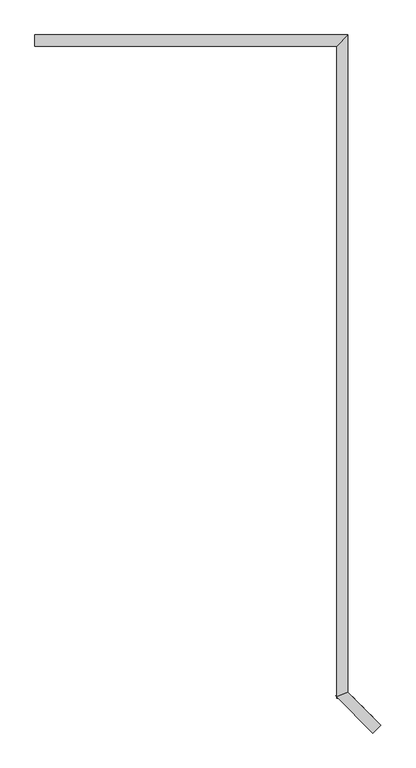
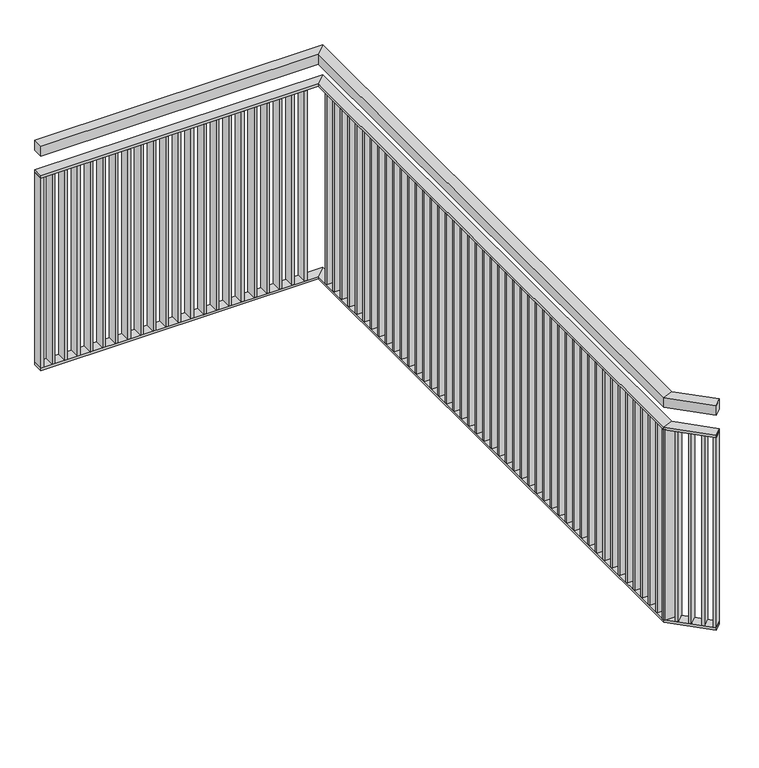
"""IFC4 building model written with IfcOpenShell, lengths in millimetres: railing geometry, Vertikale Stäbe mit Handlauf."""

import ifcopenshell
import ifcopenshell.guid

model = None  # the IFC model being written
_history = None  # IfcOwnerHistory: only IFC2X3 demands one
_inside = {}  # id of a spatial element -> (the spatial element, [elements in it])
_under = {}  # id of a project, library or spatial element -> (it, [spatial elements below it])
_declared = {}  # id of a project -> (the project, [libraries it declares])
_typed = {}  # id of a type object -> (the type object, [elements of that type])
_made_of = {}  # id of a material, layer set ... -> (it, [elements and type objects made of it])


def new_model(schema):
    """Start an empty IFC model of exactly this schema.

    Asked for "IFC4X3", IfcOpenShell would pick the latest addendum, in which some entities
    have other attributes; the version numbers below select the first issue.
    IFC2X3 requires an IfcOwnerHistory on every rooted entity: one is made here for all.
    """
    global model, _history
    if schema == "IFC4X3":
        model = ifcopenshell.file(schema_version=(4, 3, 0, 0))
    else:
        model = ifcopenshell.file(schema=schema)
    _inside.clear()
    _under.clear()
    _declared.clear()
    _typed.clear()
    _made_of.clear()
    _history = None
    if model.schema == "IFC2X3":
        org = make("IfcOrganization", Name="unknown")
        user = make(
            "IfcPersonAndOrganization",
            ThePerson=make("IfcPerson", FamilyName="unknown"),
            TheOrganization=org,
        )
        app = make(
            "IfcApplication",
            ApplicationDeveloper=org,
            Version="unknown",
            ApplicationFullName="unknown",
            ApplicationIdentifier="unknown",
        )
        _history = make(
            "IfcOwnerHistory",
            OwningUser=user,
            OwningApplication=app,
            ChangeAction="ADDED",
            CreationDate=0,
        )
    return model


def make(cls, **values):
    """One entity of the class cls with the attributes given. An attribute that is None is left unset."""
    return model.create_entity(
        cls, **{name: value for name, value in values.items() if value is not None}
    )


def rooted(cls, **values):
    """An entity with a GlobalId (a new one), such as an element, a storey or a relation."""
    return make(cls, GlobalId=ifcopenshell.guid.new(), OwnerHistory=_history, **values)


def si_unit(unit_type, name, prefix=None):
    """IfcSIUnit, for example si_unit("LENGTHUNIT", "METRE", prefix="MILLI")."""
    return make("IfcSIUnit", UnitType=unit_type, Prefix=prefix, Name=name)


def assignment(units):
    """IfcUnitAssignment: the units of a project."""
    return None if units is None else make("IfcUnitAssignment", Units=units)


def point(xyz):
    """IfcCartesianPoint."""
    return None if xyz is None else make("IfcCartesianPoint", Coordinates=xyz)


def direction(xyz):
    """IfcDirection."""
    return None if xyz is None else make("IfcDirection", DirectionRatios=xyz)


def frame(location, z_axis=None, x_axis=None):
    """IfcAxis2Placement3D, a coordinate frame: its origin and axes. An axis left out is left unset."""
    return make(
        "IfcAxis2Placement3D",
        Location=point(location),
        Axis=direction(z_axis),
        RefDirection=direction(x_axis),
    )


def origin():
    """The frame at (0, 0, 0) with its axes left unset."""
    return frame((0.0, 0.0, 0.0))


def place(relative_to, where):
    """IfcLocalPlacement: puts the frame where relative to a parent placement (None: the world)."""
    return make(
        "IfcLocalPlacement", PlacementRelTo=relative_to, RelativePlacement=where
    )


def context(
    kind, dimensions, precision=None, world=None, true_north=None, identifier=None
):
    """IfcGeometricRepresentationContext, for example the 3D "Model" context."""
    return make(
        "IfcGeometricRepresentationContext",
        ContextIdentifier=identifier,
        ContextType=kind,
        CoordinateSpaceDimension=dimensions,
        Precision=precision,
        WorldCoordinateSystem=world,
        TrueNorth=true_north,
    )


def project(units=None, contexts=None):
    """IfcProject with its units and contexts."""
    return rooted(
        "IfcProject",
        Name="project",
        RepresentationContexts=contexts,
        UnitsInContext=assignment(units),
    )


def spatial(cls, under=None, at=None, **own):
    """A site, building, storey or space (cls), placed at a placement, below another one or the project."""
    s = rooted(cls, ObjectPlacement=at, **own)
    if under is not None:
        _under.setdefault(under.id(), (under, []))[1].append(s)
    return s


def polyline(points):
    """IfcPolyline through the points."""
    return make("IfcPolyline", Points=[point(p) for p in points])


def outline(outer, holes=None, kind="AREA"):
    """IfcArbitraryClosedProfileDef: a profile drawn as a closed curve; with holes, ...WithVoids."""
    if holes is None:
        return make("IfcArbitraryClosedProfileDef", ProfileType=kind, OuterCurve=outer)
    return make(
        "IfcArbitraryProfileDefWithVoids",
        ProfileType=kind,
        OuterCurve=outer,
        InnerCurves=holes,
    )


def extrude(swept, where, along, depth):
    """IfcExtrudedAreaSolid: the profile swept, set in the frame where, extruded along a direction by depth."""
    return make(
        "IfcExtrudedAreaSolid",
        SweptArea=swept,
        Position=where,
        ExtrudedDirection=direction(along),
        Depth=depth,
    )


def faces_of(points, faces, orient=None, outer=None):
    """IfcFace entities. A face is a list of loops; a loop is a list of indices into points, from 0.

    orient and outer hold one flag for each loop. By default every Orientation is true, the
    first loop of a face is its IfcFaceOuterBound and the others are IfcFaceBound.
    """
    made = []
    for i, loops in enumerate(faces):
        bounds = []
        for j, loop in enumerate(loops):
            is_outer = j == 0 if outer is None else outer[i][j]
            bounds.append(
                make(
                    "IfcFaceOuterBound" if is_outer else "IfcFaceBound",
                    Bound=make("IfcPolyLoop", Polygon=[points[k] for k in loop]),
                    Orientation=True if orient is None else orient[i][j],
                )
            )
        made.append(make("IfcFace", Bounds=bounds))
    return made


def faceted_brep(points, faces, orient=None, outer=None, voids=None):
    """IfcFacetedBrep: a solid bounded by flat faces; with voids (closed shells), ...WithVoids."""
    shared = [point(p) for p in points]
    hull = make("IfcClosedShell", CfsFaces=faces_of(shared, faces, orient, outer))
    if voids is None:
        return make("IfcFacetedBrep", Outer=hull)
    return make(
        "IfcFacetedBrepWithVoids",
        Outer=hull,
        Voids=[
            make(cls, CfsFaces=faces_of(shared, fs, o, b)) for cls, fs, o, b in voids
        ],
    )


def shape(context_of_items, identifier, shape_type, items):
    """IfcShapeRepresentation: the items that make up one representation, for example the "Body"."""
    return make(
        "IfcShapeRepresentation",
        ContextOfItems=context_of_items,
        RepresentationIdentifier=identifier,
        RepresentationType=shape_type,
        Items=items,
    )


def source(mapping_origin, context_of_items, identifier, shape_type, items):
    """IfcRepresentationMap: a shape defined once, which mapped items show again and again."""
    return make(
        "IfcRepresentationMap",
        MappingOrigin=mapping_origin,
        MappedRepresentation=shape(context_of_items, identifier, shape_type, items),
    )


def transform(
    local_origin,
    x_axis=None,
    y_axis=None,
    z_axis=None,
    scale=None,
    scale2=None,
    scale3=None,
    uniform=True,
):
    """IfcCartesianTransformationOperator3D, or its non-uniform kind. x_axis, y_axis, z_axis: its Axis1, 2, 3."""
    if uniform:
        return make(
            "IfcCartesianTransformationOperator3D",
            Axis1=direction(x_axis),
            Axis2=direction(y_axis),
            LocalOrigin=point(local_origin),
            Scale=scale,
            Axis3=direction(z_axis),
        )
    return make(
        "IfcCartesianTransformationOperator3DnonUniform",
        Axis1=direction(x_axis),
        Axis2=direction(y_axis),
        LocalOrigin=point(local_origin),
        Scale=scale,
        Axis3=direction(z_axis),
        Scale2=scale2,
        Scale3=scale3,
    )


def mapped(mapping_source, mapping_target):
    """IfcMappedItem: shows the shape of a source again, moved by a transform."""
    return make(
        "IfcMappedItem", MappingSource=mapping_source, MappingTarget=mapping_target
    )


def made_of(thing, what):
    """Note that an element or type object is made of a material, layer set ...; save() writes the relation."""
    if what is not None:
        _made_of.setdefault(what.id(), (what, []))[1].append(thing)
    return thing


def element(
    cls,
    number,
    at=None,
    inside=None,
    cuts=None,
    type_object=None,
    material=None,
    context=None,
    identifier="Body",
    shape_type=None,
    held_by="IfcProductDefinitionShape",
    body=None,
    shapes=None,
    **own,
):
    """One element of the class cls, such as IfcWall. Its Tag is "e" and its number.

    at: its placement. inside: the storey or other place that contains it. cuts: it is an
    opening in that element (IfcRelVoidsElement). A single representation is given by context,
    identifier, shape_type and body (its items); several are given by shapes. held_by: the class
    of the entity that holds the representations. save() writes the other relations.
    """
    e = rooted(cls, Tag="e%d" % number, ObjectPlacement=at, **own)
    if body is not None:
        shapes = [shape(context, identifier, shape_type, body)]
    if shapes is not None:
        e.Representation = make(held_by, Representations=shapes)
    if inside is not None:
        _inside.setdefault(inside.id(), (inside, []))[1].append(e)
    if cuts is not None:
        rooted(
            "IfcRelVoidsElement", RelatingBuildingElement=cuts, RelatedOpeningElement=e
        )
    if type_object is not None:
        _typed.setdefault(type_object.id(), (type_object, []))[1].append(e)
    return made_of(e, material)


def aggregate(whole, parts):
    """IfcRelAggregates: a whole, such as a stair, and the parts it consists of."""
    return rooted("IfcRelAggregates", RelatingObject=whole, RelatedObjects=parts)


def save(model, path):
    """Write the relations noted so far, then the file.

    IfcRelAggregates (storeys below a building ...), IfcRelContainedInSpatialStructure (elements
    in a storey), IfcRelDefinesByType, IfcRelAssociatesMaterial and IfcRelDeclares: one each for
    every whole, place, type object, material and project.
    """
    for whole, parts in _under.values():
        aggregate(whole, parts)
    for where, things in _inside.values():
        rooted(
            "IfcRelContainedInSpatialStructure",
            RelatedElements=things,
            RelatingStructure=where,
        )
    for kind, things in _typed.values():
        rooted("IfcRelDefinesByType", RelatedObjects=things, RelatingType=kind)
    for what, things in _made_of.values():
        rooted("IfcRelAssociatesMaterial", RelatedObjects=things, RelatingMaterial=what)
    for by, libraries in _declared.values():
        rooted("IfcRelDeclares", RelatingContext=by, RelatedDefinitions=libraries)
    model.write(path)


def railing_ffa2e5ba(model_context):
    return source(origin(), model_context, "Body", "SolidModel", [
        faceted_brep([(990.0, 3950.0, 4750.0), (990.0, 3950.0, 4710.0), (990.0, 3910.0, 4710.0), (990.0, 3910.0, 4750.0), (2053.1207794, 3910.0, 4750.0), (2093.1207794, 3950.0, 4750.0), (2053.1207794, 3910.0, 4710.0), (2093.1207794, 3950.0, 4710.0), (2208.6842712, 1518.2842712, 4750.0), (2180.4, 1490.0, 4750.0), (2180.4, 1490.0, 4710.0), (2208.6842712, 1518.2842712, 4710.0), (2093.1207794, 1633.8477631, 4750.0), (2053.1207794, 1617.2792206, 4750.0), (2053.1207794, 1617.2792206, 4710.0), (2093.1207794, 1633.8477631, 4710.0)], [[[0, 1, 2, 3]], [[4, 5, 0, 3]], [[6, 4, 3, 2]], [[7, 6, 2, 1]], [[5, 7, 1, 0]], [[8, 9, 10, 11]], [[9, 8, 12, 13]], [[10, 9, 13, 14]], [[11, 10, 14, 15]], [[8, 11, 15, 12]], [[13, 12, 5, 4]], [[14, 13, 4, 6]], [[15, 14, 6, 7]], [[12, 15, 7, 5]]]),
        faceted_brep([(990.0, 3950.0, 4630.0), (990.0, 3950.0, 4620.0), (990.0, 3910.0, 4620.0), (990.0, 3910.0, 4630.0), (2053.1207794, 3910.0, 4630.0), (2093.1207794, 3950.0, 4630.0), (2053.1207794, 3910.0, 4620.0), (2093.1207794, 3950.0, 4620.0), (2208.6842712, 1518.2842712, 4630.0), (2180.4, 1490.0, 4630.0), (2180.4, 1490.0, 4620.0), (2208.6842712, 1518.2842712, 4620.0), (2093.1207794, 1633.8477631, 4630.0), (2053.1207794, 1617.2792206, 4630.0), (2053.1207794, 1617.2792206, 4620.0), (2093.1207794, 1633.8477631, 4620.0)], [[[0, 1, 2, 3]], [[4, 5, 0, 3]], [[6, 4, 3, 2]], [[7, 6, 2, 1]], [[5, 7, 1, 0]], [[8, 9, 10, 11]], [[9, 8, 12, 13]], [[10, 9, 13, 14]], [[11, 10, 14, 15]], [[8, 11, 15, 12]], [[13, 12, 5, 4]], [[14, 13, 4, 6]], [[15, 14, 6, 7]], [[12, 15, 7, 5]]]),
        faceted_brep([(990.0, 3950.0, 3850.0), (990.0, 3950.0, 3840.0), (990.0, 3910.0, 3840.0), (990.0, 3910.0, 3850.0), (2053.1207794, 3910.0, 3850.0), (2093.1207794, 3950.0, 3850.0), (2053.1207794, 3910.0, 3840.0), (2093.1207794, 3950.0, 3840.0), (2208.6842712, 1518.2842712, 3850.0), (2180.4, 1490.0, 3850.0), (2180.4, 1490.0, 3840.0), (2208.6842712, 1518.2842712, 3840.0), (2093.1207794, 1633.8477631, 3850.0), (2053.1207794, 1617.2792206, 3850.0), (2053.1207794, 1617.2792206, 3840.0), (2093.1207794, 1633.8477631, 3840.0)], [[[0, 1, 2, 3]], [[4, 5, 0, 3]], [[6, 4, 3, 2]], [[7, 6, 2, 1]], [[5, 7, 1, 0]], [[8, 9, 10, 11]], [[9, 8, 12, 13]], [[10, 9, 13, 14]], [[11, 10, 14, 15]], [[8, 11, 15, 12]], [[13, 12, 5, 4]], [[14, 13, 4, 6]], [[15, 14, 6, 7]], [[12, 15, 7, 5]]]),
        extrude(outline(polyline([(1043.3236718, 3950.0), (1043.3236718, 3910.0), (1033.3236718, 3910.0), (1033.3236718, 3950.0), (1043.3236718, 3950.0)])), frame((0.0, 0.0, 3850.0), z_axis=(0.0, 0.0, 1.0), x_axis=(1.0, 0.0, 0.0)), (0.0, 0.0, 1.0), 770.0),
        extrude(outline(polyline([(1091.6473436, 3950.0), (1091.6473436, 3910.0), (1081.6473436, 3910.0), (1081.6473436, 3950.0), (1091.6473436, 3950.0)])), frame((0.0, 0.0, 3850.0), z_axis=(0.0, 0.0, 1.0), x_axis=(1.0, 0.0, 0.0)), (0.0, 0.0, 1.0), 770.0),
        extrude(outline(polyline([(1139.9710154, 3950.0), (1139.9710154, 3910.0), (1129.9710154, 3910.0), (1129.9710154, 3950.0), (1139.9710154, 3950.0)])), frame((0.0, 0.0, 3850.0), z_axis=(0.0, 0.0, 1.0), x_axis=(1.0, 0.0, 0.0)), (0.0, 0.0, 1.0), 770.0),
        extrude(outline(polyline([(1188.2946872, 3950.0), (1188.2946872, 3910.0), (1178.2946872, 3910.0), (1178.2946872, 3950.0), (1188.2946872, 3950.0)])), frame((0.0, 0.0, 3850.0), z_axis=(0.0, 0.0, 1.0), x_axis=(1.0, 0.0, 0.0)), (0.0, 0.0, 1.0), 770.0),
        extrude(outline(polyline([(1236.618359, 3950.0), (1236.618359, 3910.0), (1226.618359, 3910.0), (1226.618359, 3950.0), (1236.618359, 3950.0)])), frame((0.0, 0.0, 3850.0), z_axis=(0.0, 0.0, 1.0), x_axis=(1.0, 0.0, 0.0)), (0.0, 0.0, 1.0), 770.0),
        extrude(outline(polyline([(1284.9420307, 3950.0), (1284.9420307, 3910.0), (1274.9420307, 3910.0), (1274.9420307, 3950.0), (1284.9420307, 3950.0)])), frame((0.0, 0.0, 3850.0), z_axis=(0.0, 0.0, 1.0), x_axis=(1.0, 0.0, 0.0)), (0.0, 0.0, 1.0), 770.0),
        extrude(outline(polyline([(1333.2657025, 3950.0), (1333.2657025, 3910.0), (1323.2657025, 3910.0), (1323.2657025, 3950.0), (1333.2657025, 3950.0)])), frame((0.0, 0.0, 3850.0), z_axis=(0.0, 0.0, 1.0), x_axis=(1.0, 0.0, 0.0)), (0.0, 0.0, 1.0), 770.0),
        extrude(outline(polyline([(1381.5893743, 3950.0), (1381.5893743, 3910.0), (1371.5893743, 3910.0), (1371.5893743, 3950.0), (1381.5893743, 3950.0)])), frame((0.0, 0.0, 3850.0), z_axis=(0.0, 0.0, 1.0), x_axis=(1.0, 0.0, 0.0)), (0.0, 0.0, 1.0), 770.0),
        extrude(outline(polyline([(1429.9130461, 3950.0), (1429.9130461, 3910.0), (1419.9130461, 3910.0), (1419.9130461, 3950.0), (1429.9130461, 3950.0)])), frame((0.0, 0.0, 3850.0), z_axis=(0.0, 0.0, 1.0), x_axis=(1.0, 0.0, 0.0)), (0.0, 0.0, 1.0), 770.0),
        extrude(outline(polyline([(1478.2367179, 3950.0), (1478.2367179, 3910.0), (1468.2367179, 3910.0), (1468.2367179, 3950.0), (1478.2367179, 3950.0)])), frame((0.0, 0.0, 3850.0), z_axis=(0.0, 0.0, 1.0), x_axis=(1.0, 0.0, 0.0)), (0.0, 0.0, 1.0), 770.0),
        extrude(outline(polyline([(1526.5603897, 3950.0), (1526.5603897, 3910.0), (1516.5603897, 3910.0), (1516.5603897, 3950.0), (1526.5603897, 3950.0)])), frame((0.0, 0.0, 3850.0), z_axis=(0.0, 0.0, 1.0), x_axis=(1.0, 0.0, 0.0)), (0.0, 0.0, 1.0), 770.0),
        extrude(outline(polyline([(1574.8840615, 3950.0), (1574.8840615, 3910.0), (1564.8840615, 3910.0), (1564.8840615, 3950.0), (1574.8840615, 3950.0)])), frame((0.0, 0.0, 3850.0), z_axis=(0.0, 0.0, 1.0), x_axis=(1.0, 0.0, 0.0)), (0.0, 0.0, 1.0), 770.0),
        extrude(outline(polyline([(1623.2077333, 3950.0), (1623.2077333, 3910.0), (1613.2077333, 3910.0), (1613.2077333, 3950.0), (1623.2077333, 3950.0)])), frame((0.0, 0.0, 3850.0), z_axis=(0.0, 0.0, 1.0), x_axis=(1.0, 0.0, 0.0)), (0.0, 0.0, 1.0), 770.0),
        extrude(outline(polyline([(1671.5314051, 3950.0), (1671.5314051, 3910.0), (1661.5314051, 3910.0), (1661.5314051, 3950.0), (1671.5314051, 3950.0)])), frame((0.0, 0.0, 3850.0), z_axis=(0.0, 0.0, 1.0), x_axis=(1.0, 0.0, 0.0)), (0.0, 0.0, 1.0), 770.0),
        extrude(outline(polyline([(1719.8550769, 3950.0), (1719.8550769, 3910.0), (1709.8550769, 3910.0), (1709.8550769, 3950.0), (1719.8550769, 3950.0)])), frame((0.0, 0.0, 3850.0), z_axis=(0.0, 0.0, 1.0), x_axis=(1.0, 0.0, 0.0)), (0.0, 0.0, 1.0), 770.0),
        extrude(outline(polyline([(1768.1787486, 3950.0), (1768.1787486, 3910.0), (1758.1787486, 3910.0), (1758.1787486, 3950.0), (1768.1787486, 3950.0)])), frame((0.0, 0.0, 3850.0), z_axis=(0.0, 0.0, 1.0), x_axis=(1.0, 0.0, 0.0)), (0.0, 0.0, 1.0), 770.0),
        extrude(outline(polyline([(1816.5024204, 3950.0), (1816.5024204, 3910.0), (1806.5024204, 3910.0), (1806.5024204, 3950.0), (1816.5024204, 3950.0)])), frame((0.0, 0.0, 3850.0), z_axis=(0.0, 0.0, 1.0), x_axis=(1.0, 0.0, 0.0)), (0.0, 0.0, 1.0), 770.0),
        extrude(outline(polyline([(1864.8260922, 3950.0), (1864.8260922, 3910.0), (1854.8260922, 3910.0), (1854.8260922, 3950.0), (1864.8260922, 3950.0)])), frame((0.0, 0.0, 3850.0), z_axis=(0.0, 0.0, 1.0), x_axis=(1.0, 0.0, 0.0)), (0.0, 0.0, 1.0), 770.0),
        extrude(outline(polyline([(1913.149764, 3950.0), (1913.149764, 3910.0), (1903.149764, 3910.0), (1903.149764, 3950.0), (1913.149764, 3950.0)])), frame((0.0, 0.0, 3850.0), z_axis=(0.0, 0.0, 1.0), x_axis=(1.0, 0.0, 0.0)), (0.0, 0.0, 1.0), 770.0),
        extrude(outline(polyline([(1961.4734358, 3950.0), (1961.4734358, 3910.0), (1951.4734358, 3910.0), (1951.4734358, 3950.0), (1961.4734358, 3950.0)])), frame((0.0, 0.0, 3850.0), z_axis=(0.0, 0.0, 1.0), x_axis=(1.0, 0.0, 0.0)), (0.0, 0.0, 1.0), 770.0),
        extrude(outline(polyline([(2009.7971076, 3950.0), (2009.7971076, 3910.0), (1999.7971076, 3910.0), (1999.7971076, 3950.0), (2009.7971076, 3950.0)])), frame((0.0, 0.0, 3850.0), z_axis=(0.0, 0.0, 1.0), x_axis=(1.0, 0.0, 0.0)), (0.0, 0.0, 1.0), 770.0),
        extrude(outline(polyline([(2093.1207794, 3855.1582439), (2053.1207794, 3855.1582439), (2053.1207794, 3865.1582439), (2093.1207794, 3865.1582439), (2093.1207794, 3855.1582439)])), frame((0.0, 0.0, 3850.0), z_axis=(0.0, 0.0, 1.0), x_axis=(1.0, 0.0, 0.0)), (0.0, 0.0, 1.0), 770.0),
        extrude(outline(polyline([(2093.1207794, 3805.3164879), (2053.1207794, 3805.3164879), (2053.1207794, 3815.3164879), (2093.1207794, 3815.3164879), (2093.1207794, 3805.3164879)])), frame((0.0, 0.0, 3850.0), z_axis=(0.0, 0.0, 1.0), x_axis=(1.0, 0.0, 0.0)), (0.0, 0.0, 1.0), 770.0),
        extrude(outline(polyline([(2093.1207794, 3755.4747318), (2053.1207794, 3755.4747318), (2053.1207794, 3765.4747318), (2093.1207794, 3765.4747318), (2093.1207794, 3755.4747318)])), frame((0.0, 0.0, 3850.0), z_axis=(0.0, 0.0, 1.0), x_axis=(1.0, 0.0, 0.0)), (0.0, 0.0, 1.0), 770.0),
        extrude(outline(polyline([(2093.1207794, 3705.6329757), (2053.1207794, 3705.6329757), (2053.1207794, 3715.6329757), (2093.1207794, 3715.6329757), (2093.1207794, 3705.6329757)])), frame((0.0, 0.0, 3850.0), z_axis=(0.0, 0.0, 1.0), x_axis=(1.0, 0.0, 0.0)), (0.0, 0.0, 1.0), 770.0),
        extrude(outline(polyline([(2093.1207794, 3655.7912196), (2053.1207794, 3655.7912196), (2053.1207794, 3665.7912196), (2093.1207794, 3665.7912196), (2093.1207794, 3655.7912196)])), frame((0.0, 0.0, 3850.0), z_axis=(0.0, 0.0, 1.0), x_axis=(1.0, 0.0, 0.0)), (0.0, 0.0, 1.0), 770.0),
        extrude(outline(polyline([(2093.1207794, 3605.9494636), (2053.1207794, 3605.9494636), (2053.1207794, 3615.9494636), (2093.1207794, 3615.9494636), (2093.1207794, 3605.9494636)])), frame((0.0, 0.0, 3850.0), z_axis=(0.0, 0.0, 1.0), x_axis=(1.0, 0.0, 0.0)), (0.0, 0.0, 1.0), 770.0),
        extrude(outline(polyline([(2093.1207794, 3556.1077075), (2053.1207794, 3556.1077075), (2053.1207794, 3566.1077075), (2093.1207794, 3566.1077075), (2093.1207794, 3556.1077075)])), frame((0.0, 0.0, 3850.0), z_axis=(0.0, 0.0, 1.0), x_axis=(1.0, 0.0, 0.0)), (0.0, 0.0, 1.0), 770.0),
        extrude(outline(polyline([(2093.1207794, 3506.2659514), (2053.1207794, 3506.2659514), (2053.1207794, 3516.2659514), (2093.1207794, 3516.2659514), (2093.1207794, 3506.2659514)])), frame((0.0, 0.0, 3850.0), z_axis=(0.0, 0.0, 1.0), x_axis=(1.0, 0.0, 0.0)), (0.0, 0.0, 1.0), 770.0),
        extrude(outline(polyline([(2093.1207794, 3456.4241953), (2053.1207794, 3456.4241953), (2053.1207794, 3466.4241953), (2093.1207794, 3466.4241953), (2093.1207794, 3456.4241953)])), frame((0.0, 0.0, 3850.0), z_axis=(0.0, 0.0, 1.0), x_axis=(1.0, 0.0, 0.0)), (0.0, 0.0, 1.0), 770.0),
        extrude(outline(polyline([(2093.1207794, 3406.5824393), (2053.1207794, 3406.5824393), (2053.1207794, 3416.5824393), (2093.1207794, 3416.5824393), (2093.1207794, 3406.5824393)])), frame((0.0, 0.0, 3850.0), z_axis=(0.0, 0.0, 1.0), x_axis=(1.0, 0.0, 0.0)), (0.0, 0.0, 1.0), 770.0),
        extrude(outline(polyline([(2093.1207794, 3356.7406832), (2053.1207794, 3356.7406832), (2053.1207794, 3366.7406832), (2093.1207794, 3366.7406832), (2093.1207794, 3356.7406832)])), frame((0.0, 0.0, 3850.0), z_axis=(0.0, 0.0, 1.0), x_axis=(1.0, 0.0, 0.0)), (0.0, 0.0, 1.0), 770.0),
        extrude(outline(polyline([(2093.1207794, 3306.8989271), (2053.1207794, 3306.8989271), (2053.1207794, 3316.8989271), (2093.1207794, 3316.8989271), (2093.1207794, 3306.8989271)])), frame((0.0, 0.0, 3850.0), z_axis=(0.0, 0.0, 1.0), x_axis=(1.0, 0.0, 0.0)), (0.0, 0.0, 1.0), 770.0),
        extrude(outline(polyline([(2093.1207794, 3257.057171), (2053.1207794, 3257.057171), (2053.1207794, 3267.057171), (2093.1207794, 3267.057171), (2093.1207794, 3257.057171)])), frame((0.0, 0.0, 3850.0), z_axis=(0.0, 0.0, 1.0), x_axis=(1.0, 0.0, 0.0)), (0.0, 0.0, 1.0), 770.0),
        extrude(outline(polyline([(2093.1207794, 3207.215415), (2053.1207794, 3207.215415), (2053.1207794, 3217.215415), (2093.1207794, 3217.215415), (2093.1207794, 3207.215415)])), frame((0.0, 0.0, 3850.0), z_axis=(0.0, 0.0, 1.0), x_axis=(1.0, 0.0, 0.0)), (0.0, 0.0, 1.0), 770.0),
        extrude(outline(polyline([(2093.1207794, 3157.3736589), (2053.1207794, 3157.3736589), (2053.1207794, 3167.3736589), (2093.1207794, 3167.3736589), (2093.1207794, 3157.3736589)])), frame((0.0, 0.0, 3850.0), z_axis=(0.0, 0.0, 1.0), x_axis=(1.0, 0.0, 0.0)), (0.0, 0.0, 1.0), 770.0),
        extrude(outline(polyline([(2093.1207794, 3107.5319028), (2053.1207794, 3107.5319028), (2053.1207794, 3117.5319028), (2093.1207794, 3117.5319028), (2093.1207794, 3107.5319028)])), frame((0.0, 0.0, 3850.0), z_axis=(0.0, 0.0, 1.0), x_axis=(1.0, 0.0, 0.0)), (0.0, 0.0, 1.0), 770.0),
        extrude(outline(polyline([(2093.1207794, 3057.6901467), (2053.1207794, 3057.6901467), (2053.1207794, 3067.6901467), (2093.1207794, 3067.6901467), (2093.1207794, 3057.6901467)])), frame((0.0, 0.0, 3850.0), z_axis=(0.0, 0.0, 1.0), x_axis=(1.0, 0.0, 0.0)), (0.0, 0.0, 1.0), 770.0),
        extrude(outline(polyline([(2093.1207794, 3007.8483907), (2053.1207794, 3007.8483907), (2053.1207794, 3017.8483907), (2093.1207794, 3017.8483907), (2093.1207794, 3007.8483907)])), frame((0.0, 0.0, 3850.0), z_axis=(0.0, 0.0, 1.0), x_axis=(1.0, 0.0, 0.0)), (0.0, 0.0, 1.0), 770.0),
        extrude(outline(polyline([(2093.1207794, 2958.0066346), (2053.1207794, 2958.0066346), (2053.1207794, 2968.0066346), (2093.1207794, 2968.0066346), (2093.1207794, 2958.0066346)])), frame((0.0, 0.0, 3850.0), z_axis=(0.0, 0.0, 1.0), x_axis=(1.0, 0.0, 0.0)), (0.0, 0.0, 1.0), 770.0),
        extrude(outline(polyline([(2093.1207794, 2908.1648785), (2053.1207794, 2908.1648785), (2053.1207794, 2918.1648785), (2093.1207794, 2918.1648785), (2093.1207794, 2908.1648785)])), frame((0.0, 0.0, 3850.0), z_axis=(0.0, 0.0, 1.0), x_axis=(1.0, 0.0, 0.0)), (0.0, 0.0, 1.0), 770.0),
        extrude(outline(polyline([(2093.1207794, 2858.3231225), (2053.1207794, 2858.3231225), (2053.1207794, 2868.3231225), (2093.1207794, 2868.3231225), (2093.1207794, 2858.3231225)])), frame((0.0, 0.0, 3850.0), z_axis=(0.0, 0.0, 1.0), x_axis=(1.0, 0.0, 0.0)), (0.0, 0.0, 1.0), 770.0),
        extrude(outline(polyline([(2093.1207794, 2808.4813664), (2053.1207794, 2808.4813664), (2053.1207794, 2818.4813664), (2093.1207794, 2818.4813664), (2093.1207794, 2808.4813664)])), frame((0.0, 0.0, 3850.0), z_axis=(0.0, 0.0, 1.0), x_axis=(1.0, 0.0, 0.0)), (0.0, 0.0, 1.0), 770.0),
        extrude(outline(polyline([(2093.1207794, 2758.6396103), (2053.1207794, 2758.6396103), (2053.1207794, 2768.6396103), (2093.1207794, 2768.6396103), (2093.1207794, 2758.6396103)])), frame((0.0, 0.0, 3850.0), z_axis=(0.0, 0.0, 1.0), x_axis=(1.0, 0.0, 0.0)), (0.0, 0.0, 1.0), 770.0),
        extrude(outline(polyline([(2093.1207794, 2708.7978542), (2053.1207794, 2708.7978542), (2053.1207794, 2718.7978542), (2093.1207794, 2718.7978542), (2093.1207794, 2708.7978542)])), frame((0.0, 0.0, 3850.0), z_axis=(0.0, 0.0, 1.0), x_axis=(1.0, 0.0, 0.0)), (0.0, 0.0, 1.0), 770.0),
        extrude(outline(polyline([(2093.1207794, 2658.9560982), (2053.1207794, 2658.9560982), (2053.1207794, 2668.9560982), (2093.1207794, 2668.9560982), (2093.1207794, 2658.9560982)])), frame((0.0, 0.0, 3850.0), z_axis=(0.0, 0.0, 1.0), x_axis=(1.0, 0.0, 0.0)), (0.0, 0.0, 1.0), 770.0),
        extrude(outline(polyline([(2093.1207794, 2609.1143421), (2053.1207794, 2609.1143421), (2053.1207794, 2619.1143421), (2093.1207794, 2619.1143421), (2093.1207794, 2609.1143421)])), frame((0.0, 0.0, 3850.0), z_axis=(0.0, 0.0, 1.0), x_axis=(1.0, 0.0, 0.0)), (0.0, 0.0, 1.0), 770.0),
        extrude(outline(polyline([(2093.1207794, 2559.272586), (2053.1207794, 2559.272586), (2053.1207794, 2569.272586), (2093.1207794, 2569.272586), (2093.1207794, 2559.272586)])), frame((0.0, 0.0, 3850.0), z_axis=(0.0, 0.0, 1.0), x_axis=(1.0, 0.0, 0.0)), (0.0, 0.0, 1.0), 770.0),
        extrude(outline(polyline([(2093.1207794, 2509.4308299), (2053.1207794, 2509.4308299), (2053.1207794, 2519.4308299), (2093.1207794, 2519.4308299), (2093.1207794, 2509.4308299)])), frame((0.0, 0.0, 3850.0), z_axis=(0.0, 0.0, 1.0), x_axis=(1.0, 0.0, 0.0)), (0.0, 0.0, 1.0), 770.0),
        extrude(outline(polyline([(2093.1207794, 2459.5890739), (2053.1207794, 2459.5890739), (2053.1207794, 2469.5890739), (2093.1207794, 2469.5890739), (2093.1207794, 2459.5890739)])), frame((0.0, 0.0, 3850.0), z_axis=(0.0, 0.0, 1.0), x_axis=(1.0, 0.0, 0.0)), (0.0, 0.0, 1.0), 770.0),
        extrude(outline(polyline([(2093.1207794, 2409.7473178), (2053.1207794, 2409.7473178), (2053.1207794, 2419.7473178), (2093.1207794, 2419.7473178), (2093.1207794, 2409.7473178)])), frame((0.0, 0.0, 3850.0), z_axis=(0.0, 0.0, 1.0), x_axis=(1.0, 0.0, 0.0)), (0.0, 0.0, 1.0), 770.0),
        extrude(outline(polyline([(2093.1207794, 2359.9055617), (2053.1207794, 2359.9055617), (2053.1207794, 2369.9055617), (2093.1207794, 2369.9055617), (2093.1207794, 2359.9055617)])), frame((0.0, 0.0, 3850.0), z_axis=(0.0, 0.0, 1.0), x_axis=(1.0, 0.0, 0.0)), (0.0, 0.0, 1.0), 770.0),
        extrude(outline(polyline([(2093.1207794, 2310.0638056), (2053.1207794, 2310.0638056), (2053.1207794, 2320.0638056), (2093.1207794, 2320.0638056), (2093.1207794, 2310.0638056)])), frame((0.0, 0.0, 3850.0), z_axis=(0.0, 0.0, 1.0), x_axis=(1.0, 0.0, 0.0)), (0.0, 0.0, 1.0), 770.0),
        extrude(outline(polyline([(2093.1207794, 2260.2220496), (2053.1207794, 2260.2220496), (2053.1207794, 2270.2220496), (2093.1207794, 2270.2220496), (2093.1207794, 2260.2220496)])), frame((0.0, 0.0, 3850.0), z_axis=(0.0, 0.0, 1.0), x_axis=(1.0, 0.0, 0.0)), (0.0, 0.0, 1.0), 770.0),
        extrude(outline(polyline([(2093.1207794, 2210.3802935), (2053.1207794, 2210.3802935), (2053.1207794, 2220.3802935), (2093.1207794, 2220.3802935), (2093.1207794, 2210.3802935)])), frame((0.0, 0.0, 3850.0), z_axis=(0.0, 0.0, 1.0), x_axis=(1.0, 0.0, 0.0)), (0.0, 0.0, 1.0), 770.0),
        extrude(outline(polyline([(2093.1207794, 2160.5385374), (2053.1207794, 2160.5385374), (2053.1207794, 2170.5385374), (2093.1207794, 2170.5385374), (2093.1207794, 2160.5385374)])), frame((0.0, 0.0, 3850.0), z_axis=(0.0, 0.0, 1.0), x_axis=(1.0, 0.0, 0.0)), (0.0, 0.0, 1.0), 770.0),
        extrude(outline(polyline([(2093.1207794, 2110.6967813), (2053.1207794, 2110.6967813), (2053.1207794, 2120.6967813), (2093.1207794, 2120.6967813), (2093.1207794, 2110.6967813)])), frame((0.0, 0.0, 3850.0), z_axis=(0.0, 0.0, 1.0), x_axis=(1.0, 0.0, 0.0)), (0.0, 0.0, 1.0), 770.0),
        extrude(outline(polyline([(2093.1207794, 2060.8550253), (2053.1207794, 2060.8550253), (2053.1207794, 2070.8550253), (2093.1207794, 2070.8550253), (2093.1207794, 2060.8550253)])), frame((0.0, 0.0, 3850.0), z_axis=(0.0, 0.0, 1.0), x_axis=(1.0, 0.0, 0.0)), (0.0, 0.0, 1.0), 770.0),
        extrude(outline(polyline([(2093.1207794, 2011.0132692), (2053.1207794, 2011.0132692), (2053.1207794, 2021.0132692), (2093.1207794, 2021.0132692), (2093.1207794, 2011.0132692)])), frame((0.0, 0.0, 3850.0), z_axis=(0.0, 0.0, 1.0), x_axis=(1.0, 0.0, 0.0)), (0.0, 0.0, 1.0), 770.0),
        extrude(outline(polyline([(2093.1207794, 1961.1715131), (2053.1207794, 1961.1715131), (2053.1207794, 1971.1715131), (2093.1207794, 1971.1715131), (2093.1207794, 1961.1715131)])), frame((0.0, 0.0, 3850.0), z_axis=(0.0, 0.0, 1.0), x_axis=(1.0, 0.0, 0.0)), (0.0, 0.0, 1.0), 770.0),
        extrude(outline(polyline([(2093.1207794, 1911.3297571), (2053.1207794, 1911.3297571), (2053.1207794, 1921.3297571), (2093.1207794, 1921.3297571), (2093.1207794, 1911.3297571)])), frame((0.0, 0.0, 3850.0), z_axis=(0.0, 0.0, 1.0), x_axis=(1.0, 0.0, 0.0)), (0.0, 0.0, 1.0), 770.0),
        extrude(outline(polyline([(2093.1207794, 1861.488001), (2053.1207794, 1861.488001), (2053.1207794, 1871.488001), (2093.1207794, 1871.488001), (2093.1207794, 1861.488001)])), frame((0.0, 0.0, 3850.0), z_axis=(0.0, 0.0, 1.0), x_axis=(1.0, 0.0, 0.0)), (0.0, 0.0, 1.0), 770.0),
        extrude(outline(polyline([(2093.1207794, 1811.6462449), (2053.1207794, 1811.6462449), (2053.1207794, 1821.6462449), (2093.1207794, 1821.6462449), (2093.1207794, 1811.6462449)])), frame((0.0, 0.0, 3850.0), z_axis=(0.0, 0.0, 1.0), x_axis=(1.0, 0.0, 0.0)), (0.0, 0.0, 1.0), 770.0),
        extrude(outline(polyline([(2093.1207794, 1761.8044888), (2053.1207794, 1761.8044888), (2053.1207794, 1771.8044888), (2093.1207794, 1771.8044888), (2093.1207794, 1761.8044888)])), frame((0.0, 0.0, 3850.0), z_axis=(0.0, 0.0, 1.0), x_axis=(1.0, 0.0, 0.0)), (0.0, 0.0, 1.0), 770.0),
        extrude(outline(polyline([(2093.1207794, 1711.9627328), (2053.1207794, 1711.9627328), (2053.1207794, 1721.9627328), (2093.1207794, 1721.9627328), (2093.1207794, 1711.9627328)])), frame((0.0, 0.0, 3850.0), z_axis=(0.0, 0.0, 1.0), x_axis=(1.0, 0.0, 0.0)), (0.0, 0.0, 1.0), 770.0),
        extrude(outline(polyline([(2093.1207794, 1662.1209767), (2053.1207794, 1662.1209767), (2053.1207794, 1672.1209767), (2093.1207794, 1672.1209767), (2093.1207794, 1662.1209767)])), frame((0.0, 0.0, 3850.0), z_axis=(0.0, 0.0, 1.0), x_axis=(1.0, 0.0, 0.0)), (0.0, 0.0, 1.0), 770.0),
        extrude(outline(polyline([(2093.1207794, 1612.2792206), (2053.1207794, 1612.2792206), (2053.1207794, 1622.2792206), (2093.1207794, 1622.2792206), (2093.1207794, 1612.2792206)])), frame((0.0, 0.0, 3850.0), z_axis=(0.0, 0.0, 1.0), x_axis=(1.0, 0.0, 0.0)), (0.0, 0.0, 1.0), 770.0),
        extrude(outline(polyline([(2084.9405845, 1642.027958), (2056.6563133, 1613.7436867), (2049.5852455, 1620.8147545), (2077.8695167, 1649.0990258), (2084.9405845, 1642.027958)])), frame((0.0, 0.0, 3850.0), z_axis=(0.0, 0.0, 1.0), x_axis=(1.0, 0.0, 0.0)), (0.0, 0.0, 1.0), 770.0),
        extrude(outline(polyline([(2116.7603897, 1610.2081528), (2088.4761184, 1581.9238816), (2081.4050506, 1588.9949494), (2109.6893219, 1617.2792206), (2116.7603897, 1610.2081528)])), frame((0.0, 0.0, 3850.0), z_axis=(0.0, 0.0, 1.0), x_axis=(1.0, 0.0, 0.0)), (0.0, 0.0, 1.0), 770.0),
        extrude(outline(polyline([(2148.5801948, 1578.3883476), (2120.2959236, 1550.1040764), (2113.2248558, 1557.1751442), (2141.509127, 1585.4594155), (2148.5801948, 1578.3883476)])), frame((0.0, 0.0, 3850.0), z_axis=(0.0, 0.0, 1.0), x_axis=(1.0, 0.0, 0.0)), (0.0, 0.0, 1.0), 770.0),
        extrude(outline(polyline([(2180.4, 1546.5685425), (2152.1157288, 1518.2842712), (2145.0446609, 1525.3553391), (2173.3289322, 1553.6396103), (2180.4, 1546.5685425)])), frame((0.0, 0.0, 3850.0), z_axis=(0.0, 0.0, 1.0), x_axis=(1.0, 0.0, 0.0)), (0.0, 0.0, 1.0), 770.0),
        extrude(outline(polyline([(1000.0, 3950.0), (1000.0, 3910.0), (990.0, 3910.0), (990.0, 3950.0), (1000.0, 3950.0)])), frame((0.0, 0.0, 3850.0), z_axis=(0.0, 0.0, 1.0), x_axis=(1.0, 0.0, 0.0)), (0.0, 0.0, 1.0), 770.0),
        extrude(outline(polyline([(2208.6842712, 1518.2842712), (2180.4, 1490.0), (2173.3289322, 1497.0710678), (2201.6132034, 1525.3553391), (2208.6842712, 1518.2842712)])), frame((0.0, 0.0, 3850.0), z_axis=(0.0, 0.0, 1.0), x_axis=(1.0, 0.0, 0.0)), (0.0, 0.0, 1.0), 770.0),
    ])


if __name__ == "__main__":
    model = new_model("IFC4")
    model_context = context("Model", 3, world=origin())
    ifc_project = project(units=[si_unit("LENGTHUNIT", "METRE", prefix="MILLI")], contexts=[model_context])
    site = spatial("IfcSite", under=ifc_project)
    building = spatial("IfcBuilding", under=site)
    placement = place(None, origin())
    railing_shape = railing_ffa2e5ba(model_context)
    element("IfcRailing", 1, ObjectType="Vertikale Stäbe mit Handlauf", at=placement, inside=building, context=model_context, shape_type="MappedRepresentation", body=[
        mapped(railing_shape, transform((0.0, 0.0, 0.0), x_axis=(1.0, 0.0, 0.0), y_axis=(0.0, 1.0, 0.0), z_axis=(0.0, 0.0, 1.0))),
    ])
    save(model, "model.ifc")
